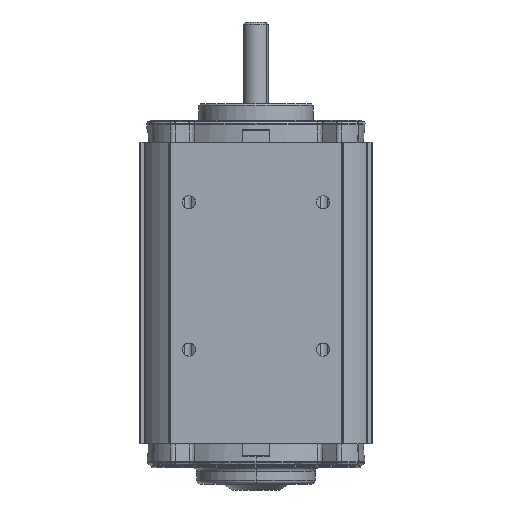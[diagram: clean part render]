
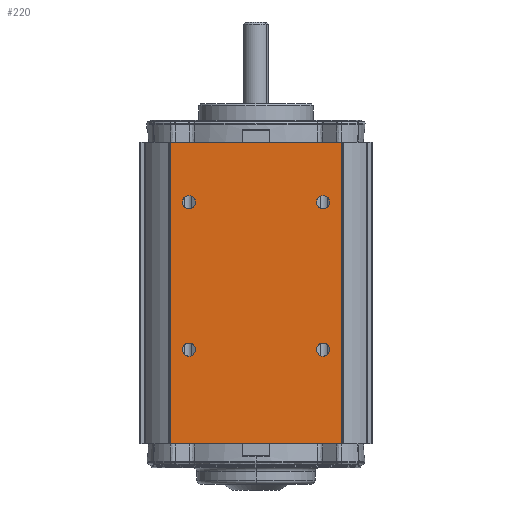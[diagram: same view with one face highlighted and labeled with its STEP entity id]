
A CAD part, front view. The second image highlights one B-rep face of the part: STEP entity #220.
In plain terms, the highlighted planar face has unit normal (0, -1, 0).
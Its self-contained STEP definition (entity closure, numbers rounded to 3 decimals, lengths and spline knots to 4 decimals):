
#11 = VERTEX_POINT ( 'NONE', #7410 ) ;
#13 = EDGE_CURVE ( 'NONE', #14, #11, #7409, .T. ) ;
#14 = VERTEX_POINT ( 'NONE', #7468 ) ;
#60 = EDGE_CURVE ( 'NONE', #33817, #33816, #7501, .T. ) ;
#98 = EDGE_CURVE ( 'NONE', #33927, #33842, #7600, .T. ) ;
#209 = ORIENTED_EDGE ( 'NONE', *, *, #33893, .F. ) ;
#210 = EDGE_LOOP ( 'NONE', ( #211, #212, #214, #272 ) ) ;
#211 = ORIENTED_EDGE ( 'NONE', *, *, #13, .T. ) ;
#212 = ORIENTED_EDGE ( 'NONE', *, *, #213, .T. ) ;
#213 = EDGE_CURVE ( 'NONE', #11, #35788, #7818, .T. ) ;
#214 = ORIENTED_EDGE ( 'NONE', *, *, #35767, .T. ) ;
#219 = EDGE_CURVE ( 'NONE', #33150, #11149, #7807, .T. ) ;
#220 = ADVANCED_FACE ( 'NONE', ( #7808, #7803, #7802, #7801, #7800 ), #7797, .F. ) ;
#221 = EDGE_LOOP ( 'NONE', ( #222, #223 ) ) ;
#222 = ORIENTED_EDGE ( 'NONE', *, *, #219, .F. ) ;
#223 = ORIENTED_EDGE ( 'NONE', *, *, #33149, .F. ) ;
#224 = EDGE_LOOP ( 'NONE', ( #225, #285 ) ) ;
#225 = ORIENTED_EDGE ( 'NONE', *, *, #98, .F. ) ;
#226 = EDGE_LOOP ( 'NONE', ( #286, #288 ) ) ;
#272 = ORIENTED_EDGE ( 'NONE', *, *, #273, .T. ) ;
#273 = EDGE_CURVE ( 'NONE', #35765, #14, #7908, .T. ) ;
#285 = ORIENTED_EDGE ( 'NONE', *, *, #33782, .F. ) ;
#286 = ORIENTED_EDGE ( 'NONE', *, *, #287, .F. ) ;
#287 = EDGE_CURVE ( 'NONE', #11362, #15445, #7946, .T. ) ;
#288 = ORIENTED_EDGE ( 'NONE', *, *, #11402, .F. ) ;
#289 = EDGE_LOOP ( 'NONE', ( #290, #209 ) ) ;
#290 = ORIENTED_EDGE ( 'NONE', *, *, #60, .F. ) ;
#7109 = DIRECTION ( 'NONE',  ( 0., 0., 1. ) ) ;
#7406 = DIRECTION ( 'NONE',  ( 0., 0., 1. ) ) ;
#7407 = VECTOR ( 'NONE', #7406, 39.3701 ) ;
#7408 = CARTESIAN_POINT ( 'NONE',  ( 1.305, -1.7765, 4.688 ) ) ;
#7409 = LINE ( 'NONE', #7408, #7407 ) ;
#7410 = CARTESIAN_POINT ( 'NONE',  ( 1.305, -1.7765, 4.605 ) ) ;
#7468 = CARTESIAN_POINT ( 'NONE',  ( 1.305, -1.7765, 0. ) ) ;
#7497 = DIRECTION ( 'NONE',  ( 1., 0., 0. ) ) ;
#7498 = DIRECTION ( 'NONE',  ( 0., -1., 0. ) ) ;
#7499 = CARTESIAN_POINT ( 'NONE',  ( -1.024, -1.7765, 3.6893 ) ) ;
#7500 = AXIS2_PLACEMENT_3D ( 'NONE', #7499, #7498, #7497 ) ;
#7501 = CIRCLE ( 'NONE', #7500, 0.1005 ) ;
#7556 = CARTESIAN_POINT ( 'NONE',  ( 1.325, -1.7765, 4.688 ) ) ;
#7557 = AXIS2_PLACEMENT_3D ( 'NONE', #7556, #7799, #7109 ) ;
#7597 = DIRECTION ( 'NONE',  ( 1., 0., 0. ) ) ;
#7598 = DIRECTION ( 'NONE',  ( 0., -1., 0. ) ) ;
#7599 = AXIS2_PLACEMENT_3D ( 'NONE', #7606, #7598, #7597 ) ;
#7600 = CIRCLE ( 'NONE', #7599, 0.1005 ) ;
#7606 = CARTESIAN_POINT ( 'NONE',  ( 1.024, -1.7765, 3.6893 ) ) ;
#7797 = PLANE ( 'NONE',  #7557 ) ;
#7799 = DIRECTION ( 'NONE',  ( 0., 1., 0. ) ) ;
#7800 = FACE_OUTER_BOUND ( 'NONE', #210, .T. ) ;
#7801 = FACE_BOUND ( 'NONE', #289, .T. ) ;
#7802 = FACE_BOUND ( 'NONE', #226, .T. ) ;
#7803 = FACE_BOUND ( 'NONE', #224, .T. ) ;
#7804 = DIRECTION ( 'NONE',  ( 1., 0., 0. ) ) ;
#7805 = DIRECTION ( 'NONE',  ( 0., -1., 0. ) ) ;
#7806 = AXIS2_PLACEMENT_3D ( 'NONE', #7813, #7805, #7804 ) ;
#7807 = CIRCLE ( 'NONE', #7806, 0.1005 ) ;
#7808 = FACE_BOUND ( 'NONE', #221, .T. ) ;
#7813 = CARTESIAN_POINT ( 'NONE',  ( 1.024, -1.7765, 1.4393 ) ) ;
#7815 = DIRECTION ( 'NONE',  ( -1., 0., 0. ) ) ;
#7816 = VECTOR ( 'NONE', #7815, 39.3701 ) ;
#7817 = CARTESIAN_POINT ( 'NONE',  ( -1.7765, -1.7765, 4.605 ) ) ;
#7818 = LINE ( 'NONE', #7817, #7816 ) ;
#7905 = DIRECTION ( 'NONE',  ( 1., 0., 0. ) ) ;
#7906 = VECTOR ( 'NONE', #7905, 39.3701 ) ;
#7907 = CARTESIAN_POINT ( 'NONE',  ( 1.325, -1.7765, 0. ) ) ;
#7908 = LINE ( 'NONE', #7907, #7906 ) ;
#7942 = DIRECTION ( 'NONE',  ( 1., 0., 0. ) ) ;
#7943 = DIRECTION ( 'NONE',  ( 0., -1., 0. ) ) ;
#7944 = CARTESIAN_POINT ( 'NONE',  ( -1.024, -1.7765, 1.4393 ) ) ;
#7945 = AXIS2_PLACEMENT_3D ( 'NONE', #7944, #7943, #7942 ) ;
#7946 = CIRCLE ( 'NONE', #7945, 0.1005 ) ;
#11149 = VERTEX_POINT ( 'NONE', #24060 ) ;
#11362 = VERTEX_POINT ( 'NONE', #24608 ) ;
#11402 = EDGE_CURVE ( 'NONE', #15445, #11362, #24687, .T. ) ;
#15445 = VERTEX_POINT ( 'NONE', #25419 ) ;
#24060 = CARTESIAN_POINT ( 'NONE',  ( 0.9235, -1.7765, 1.4393 ) ) ;
#24608 = CARTESIAN_POINT ( 'NONE',  ( -0.9235, -1.7765, 1.4393 ) ) ;
#24683 = DIRECTION ( 'NONE',  ( 1., 0., 0. ) ) ;
#24684 = DIRECTION ( 'NONE',  ( 0., -1., 0. ) ) ;
#24685 = CARTESIAN_POINT ( 'NONE',  ( -1.024, -1.7765, 1.4393 ) ) ;
#24686 = AXIS2_PLACEMENT_3D ( 'NONE', #24685, #24684, #24683 ) ;
#24687 = CIRCLE ( 'NONE', #24686, 0.1005 ) ;
#25419 = CARTESIAN_POINT ( 'NONE',  ( -1.1245, -1.7765, 1.4393 ) ) ;
#26175 = CARTESIAN_POINT ( 'NONE',  ( 1.1245, -1.7765, 1.4393 ) ) ;
#26176 = DIRECTION ( 'NONE',  ( 1., 0., 0. ) ) ;
#26177 = DIRECTION ( 'NONE',  ( 0., -1., 0. ) ) ;
#26178 = CARTESIAN_POINT ( 'NONE',  ( 1.024, -1.7765, 1.4393 ) ) ;
#26179 = AXIS2_PLACEMENT_3D ( 'NONE', #26178, #26177, #26176 ) ;
#26180 = CIRCLE ( 'NONE', #26179, 0.1005 ) ;
#27654 = DIRECTION ( 'NONE',  ( 1., 0., 0. ) ) ;
#27655 = DIRECTION ( 'NONE',  ( 0., -1., 0. ) ) ;
#27656 = CARTESIAN_POINT ( 'NONE',  ( 1.024, -1.7765, 3.6893 ) ) ;
#27657 = AXIS2_PLACEMENT_3D ( 'NONE', #27656, #27655, #27654 ) ;
#27658 = CIRCLE ( 'NONE', #27657, 0.1005 ) ;
#27758 = CARTESIAN_POINT ( 'NONE',  ( -0.9235, -1.7765, 3.6893 ) ) ;
#27759 = CARTESIAN_POINT ( 'NONE',  ( -1.1245, -1.7765, 3.6893 ) ) ;
#27836 = CARTESIAN_POINT ( 'NONE',  ( 0.9235, -1.7765, 3.6893 ) ) ;
#27929 = DIRECTION ( 'NONE',  ( 1., 0., 0. ) ) ;
#27930 = DIRECTION ( 'NONE',  ( 0., -1., 0. ) ) ;
#27931 = CARTESIAN_POINT ( 'NONE',  ( -1.024, -1.7765, 3.6893 ) ) ;
#27932 = AXIS2_PLACEMENT_3D ( 'NONE', #27931, #27930, #27929 ) ;
#27933 = CIRCLE ( 'NONE', #27932, 0.1005 ) ;
#28077 = CARTESIAN_POINT ( 'NONE',  ( 1.1245, -1.7765, 3.6893 ) ) ;
#32383 = DIRECTION ( 'NONE',  ( 0., 0., -1. ) ) ;
#32384 = VECTOR ( 'NONE', #32383, 39.3701 ) ;
#32385 = CARTESIAN_POINT ( 'NONE',  ( -1.305, -1.7765, 4.688 ) ) ;
#32386 = LINE ( 'NONE', #32385, #32384 ) ;
#32387 = CARTESIAN_POINT ( 'NONE',  ( -1.305, -1.7765, 0. ) ) ;
#32408 = CARTESIAN_POINT ( 'NONE',  ( -1.305, -1.7765, 4.605 ) ) ;
#33149 = EDGE_CURVE ( 'NONE', #11149, #33150, #26180, .T. ) ;
#33150 = VERTEX_POINT ( 'NONE', #26175 ) ;
#33782 = EDGE_CURVE ( 'NONE', #33842, #33927, #27658, .T. ) ;
#33816 = VERTEX_POINT ( 'NONE', #27759 ) ;
#33817 = VERTEX_POINT ( 'NONE', #27758 ) ;
#33842 = VERTEX_POINT ( 'NONE', #27836 ) ;
#33893 = EDGE_CURVE ( 'NONE', #33816, #33817, #27933, .T. ) ;
#33927 = VERTEX_POINT ( 'NONE', #28077 ) ;
#35765 = VERTEX_POINT ( 'NONE', #32387 ) ;
#35767 = EDGE_CURVE ( 'NONE', #35788, #35765, #32386, .T. ) ;
#35788 = VERTEX_POINT ( 'NONE', #32408 ) ;
